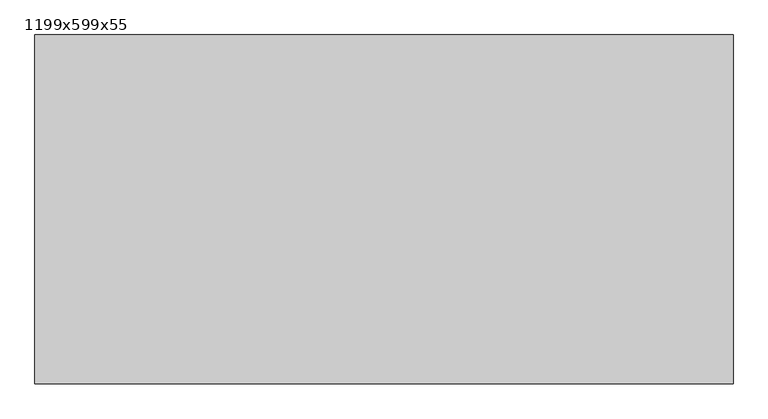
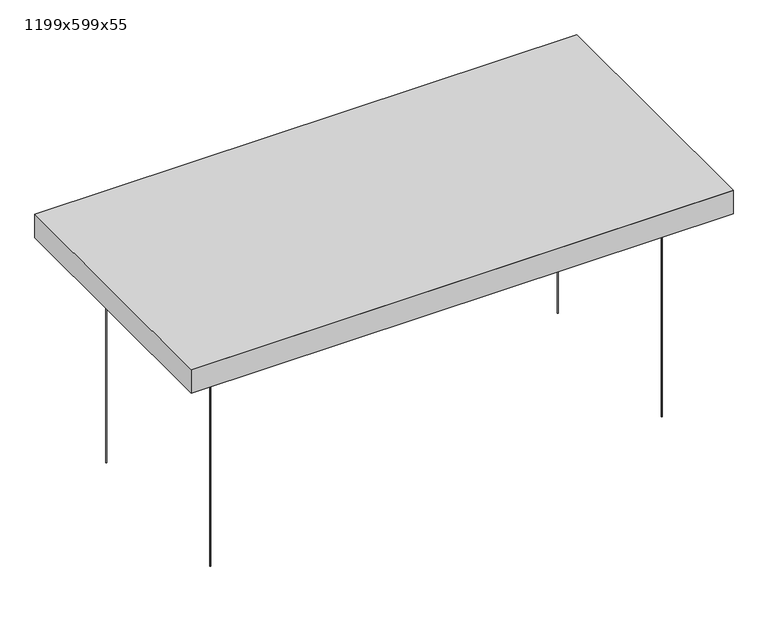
"""IFC4 building model written with IfcOpenShell, lengths in millimetres: proxy geometry, Texaa_Plafond respirant_Strato_Panneaux respirant : 1199x599x55."""

from ifc_helpers import new_model, si_unit, point, frame_2d, origin, origin_with_axes, place, context, project, spatial, circle_curve, trimmed, segment, composite_curve, outline, extrude, faceted_brep, source, transform, mapped, element, save


def proxy_1199x599x55_fd322afb(model_context):
    return source(origin(), model_context, "Body", "SolidModel", [
        faceted_brep([(-598.5, -298.5, 501.0), (598.5, -298.5, 501.0), (598.5, -298.5, 554.0), (-598.5, -298.5, 554.0), (-569.5, -269.5, 539.5411334), (569.5, -269.5, 539.5411334), (569.5, -269.5, 501.0), (-569.5, -269.5, 501.0), (598.5, 298.5, 501.0), (598.5, 298.5, 554.0), (569.5, 269.5, 539.5411334), (569.5, 269.5, 501.0), (-598.5, 298.5, 501.0), (-598.5, 298.5, 554.0), (-569.5, 269.5, 539.5411334), (-569.5, 269.5, 501.0)], [[[0, 1, 2, 3]], [[4, 5, 6, 7]], [[1, 8, 9, 2]], [[5, 10, 11, 6]], [[8, 12, 13, 9]], [[10, 14, 15, 11]], [[12, 0, 3, 13]], [[14, 4, 7, 15]], [[1, 0, 12, 8], [7, 6, 11, 15]], [[3, 2, 5, 4]], [[2, 9, 10, 5]], [[9, 13, 14, 10]], [[13, 3, 4, 14]]]),
        extrude(outline(composite_curve([segment(trimmed(circle_curve(frame_2d((-499.5, -199.5)), 0.75), [point((-500.25, -199.5))], [point((-498.75, -199.5))], False, "CARTESIAN"), True, "CONTINUOUS"), segment(trimmed(circle_curve(frame_2d((-499.5, -199.5)), 0.75), [point((-498.75, -199.5))], [point((-500.25, -199.5))], False, "CARTESIAN"), True, "CONTINUOUS")], self_intersect=False)), origin_with_axes(), (0.0, 0.0, 1.0), 500.0),
        extrude(outline(composite_curve([segment(trimmed(circle_curve(frame_2d((499.5, -199.5)), 0.75), [point((498.75, -199.5))], [point((500.25, -199.5))], False, "CARTESIAN"), True, "CONTINUOUS"), segment(trimmed(circle_curve(frame_2d((499.5, -199.5)), 0.75), [point((500.25, -199.5))], [point((498.75, -199.5))], False, "CARTESIAN"), True, "CONTINUOUS")], self_intersect=False)), origin_with_axes(), (0.0, 0.0, 1.0), 500.0),
        extrude(outline(composite_curve([segment(trimmed(circle_curve(frame_2d((499.5, 199.5)), 0.75), [point((498.75, 199.5))], [point((500.25, 199.5))], False, "CARTESIAN"), True, "CONTINUOUS"), segment(trimmed(circle_curve(frame_2d((499.5, 199.5)), 0.75), [point((500.25, 199.5))], [point((498.75, 199.5))], False, "CARTESIAN"), True, "CONTINUOUS")], self_intersect=False)), origin_with_axes(), (0.0, 0.0, 1.0), 500.0),
        extrude(outline(composite_curve([segment(trimmed(circle_curve(frame_2d((-499.5, 199.5)), 0.75), [point((-500.25, 199.5))], [point((-498.75, 199.5))], False, "CARTESIAN"), True, "CONTINUOUS"), segment(trimmed(circle_curve(frame_2d((-499.5, 199.5)), 0.75), [point((-498.75, 199.5))], [point((-500.25, 199.5))], False, "CARTESIAN"), True, "CONTINUOUS")], self_intersect=False)), origin_with_axes(), (0.0, 0.0, 1.0), 500.0),
        faceted_brep([(-599.5, -299.5, 555.0), (599.5, -299.5, 555.0), (599.5, 299.5, 555.0), (-599.5, 299.5, 555.0), (-599.5, -299.5, 500.0), (-599.5, 299.5, 500.0), (599.5, 299.5, 500.0), (599.5, -299.5, 500.0), (-569.5, 269.5, 500.0), (-569.5, -269.5, 500.0), (569.5, -269.5, 500.0), (569.5, 269.5, 500.0), (569.5, 269.5, 501.0), (-569.5, 269.5, 501.0), (569.5, -269.5, 501.0), (-569.5, -269.5, 501.0), (-598.5, -298.5, 554.0), (-598.5, 298.5, 554.0), (598.5, 298.5, 554.0), (598.5, -298.5, 554.0), (-598.5, -298.5, 501.0), (598.5, -298.5, 501.0), (598.5, 298.5, 501.0), (-598.5, 298.5, 501.0)], [[[0, 1, 2, 3]], [[4, 5, 6, 7], [8, 9, 10, 11]], [[3, 5, 4, 0]], [[2, 6, 5, 3]], [[1, 7, 6, 2]], [[0, 4, 7, 1]], [[8, 11, 12, 13]], [[11, 10, 14, 12]], [[10, 9, 15, 14]], [[13, 15, 9, 8]], [[16, 17, 18, 19]], [[20, 21, 22, 23], [12, 14, 15, 13]], [[16, 20, 23, 17]], [[17, 23, 22, 18]], [[18, 22, 21, 19]], [[19, 21, 20, 16]]]),
    ])


if __name__ == "__main__":
    model = new_model("IFC4")
    model_context = context("Model", 3, world=origin())
    ifc_project = project(units=[si_unit("LENGTHUNIT", "METRE", prefix="MILLI")], contexts=[model_context])
    site = spatial("IfcSite", under=ifc_project)
    building = spatial("IfcBuilding", under=site)
    placement = place(None, origin())
    proxy_1199x599x55_shape = proxy_1199x599x55_fd322afb(model_context)
    element("IfcBuildingElementProxy", 1, Name="Texaa_Plafond respirant_Strato_Panneaux respirant : 1199x599x55", ObjectType="Texaa_Plafond respirant_Strato_Panneaux respirant : 1199x599x55", at=placement, inside=building, context=model_context, shape_type="MappedRepresentation", body=[
        mapped(proxy_1199x599x55_shape, transform((0.0, 0.0, 0.0), x_axis=(1.0, 0.0, 0.0), y_axis=(0.0, 1.0, 0.0), z_axis=(0.0, 0.0, 1.0))),
    ])
    save(model, "model.ifc")
